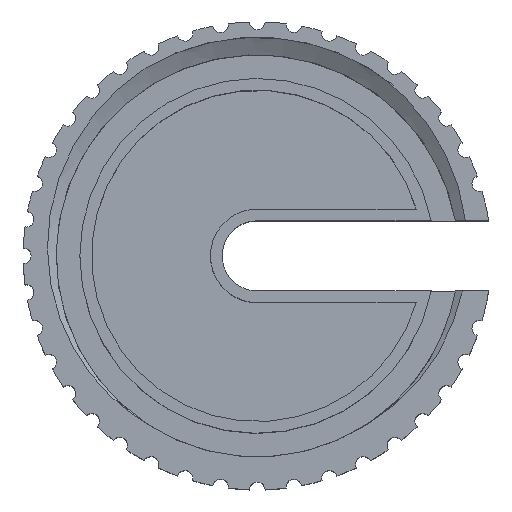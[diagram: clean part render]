
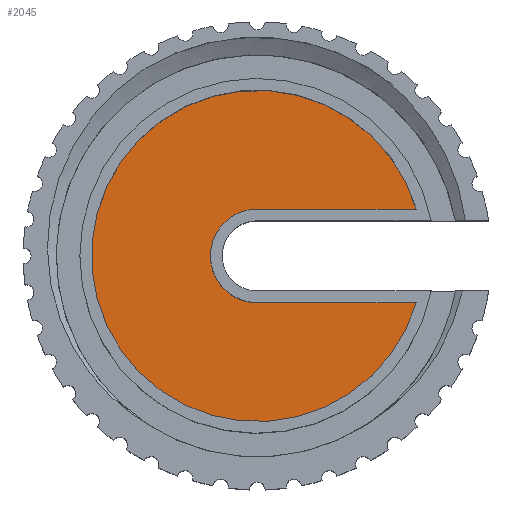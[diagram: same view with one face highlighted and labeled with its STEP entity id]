
A CAD part, top view. The second image highlights one B-rep face of the part: STEP entity #2045.
In plain terms, the highlighted planar face has unit normal (0, 0, 1) as drawn and (0, 0, -1) by its records, which use the part's own axes.
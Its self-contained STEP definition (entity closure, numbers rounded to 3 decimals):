
#23=PLANE('',#2168);
#71=FACE_OUTER_BOUND('',#184,.T.);
#184=EDGE_LOOP('',(#1405,#1406,#1407,#1408));
#274=CIRCLE('',#2162,21.25);
#276=CIRCLE('',#2166,6.);
#513=LINE('',#5341,#629);
#516=LINE('',#5350,#632);
#629=VECTOR('',#2481,10.);
#632=VECTOR('',#2492,10.);
#775=VERTEX_POINT('',#5331);
#776=VERTEX_POINT('',#5333);
#778=VERTEX_POINT('',#5339);
#780=VERTEX_POINT('',#5345);
#1019=EDGE_CURVE('',#775,#776,#274,.T.);
#1023=EDGE_CURVE('',#778,#775,#513,.T.);
#1026=EDGE_CURVE('',#780,#778,#276,.T.);
#1028=EDGE_CURVE('',#776,#780,#516,.T.);
#1405=ORIENTED_EDGE('',*,*,#1028,.F.);
#1406=ORIENTED_EDGE('',*,*,#1019,.F.);
#1407=ORIENTED_EDGE('',*,*,#1023,.F.);
#1408=ORIENTED_EDGE('',*,*,#1026,.F.);
#2045=ADVANCED_FACE('',(#71),#23,.T.);
#2162=AXIS2_PLACEMENT_3D('',#5334,#2474,#2475);
#2166=AXIS2_PLACEMENT_3D('',#5347,#2487,#2488);
#2168=AXIS2_PLACEMENT_3D('',#5351,#2493,#2494);
#2474=DIRECTION('center_axis',(0.,0.,1.));
#2475=DIRECTION('ref_axis',(0.959,-0.282,0.));
#2481=DIRECTION('',(1.,0.,0.));
#2487=DIRECTION('center_axis',(0.,0.,-1.));
#2488=DIRECTION('ref_axis',(0.,-1.,0.));
#2492=DIRECTION('',(-1.,0.,0.));
#2493=DIRECTION('center_axis',(0.,0.,-1.));
#2494=DIRECTION('ref_axis',(1.,0.,0.));
#5331=CARTESIAN_POINT('',(20.385,6.,0.));
#5333=CARTESIAN_POINT('',(20.385,-6.,0.));
#5334=CARTESIAN_POINT('Origin',(0.,0.,0.));
#5339=CARTESIAN_POINT('',(0.,6.,0.));
#5341=CARTESIAN_POINT('',(20.385,6.,0.));
#5345=CARTESIAN_POINT('',(0.,-6.,0.));
#5347=CARTESIAN_POINT('Origin',(0.,0.,0.));
#5350=CARTESIAN_POINT('',(0.,-6.,0.));
#5351=CARTESIAN_POINT('Origin',(-0.432,0.,0.));
